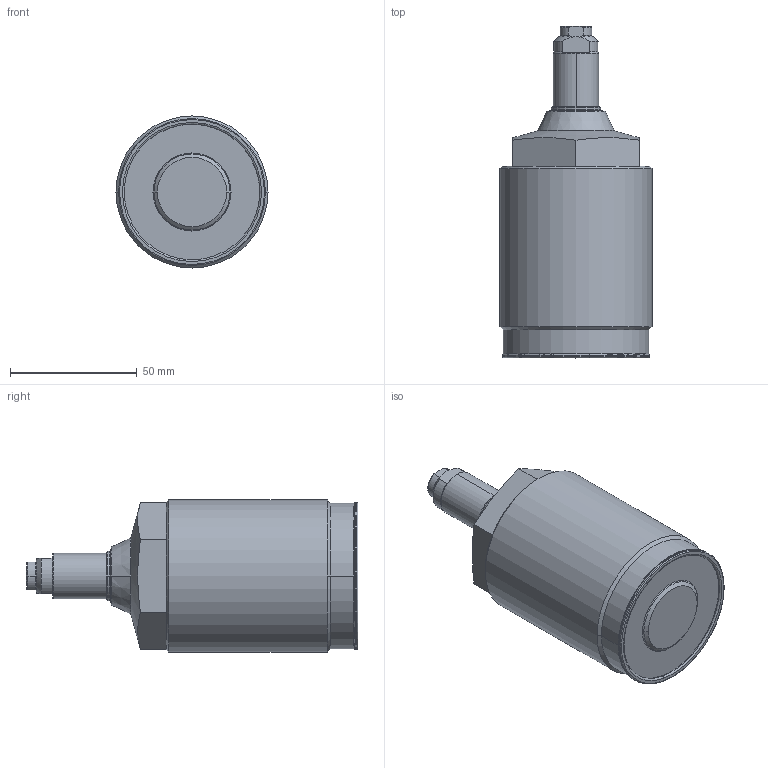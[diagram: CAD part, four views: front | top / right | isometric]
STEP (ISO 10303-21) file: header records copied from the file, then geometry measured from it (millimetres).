
FILE_DESCRIPTION(/* description */ (''),/* implementation_level */ '2;1');
FILE_NAME(/* name */ 'TNE60-Q_stp.stp',/* time_stamp */ '2024-01-16T10:55:10+08:00',/* author */ (''),/* organization */ (''),/* preprocessor_version */ 'ST-DEVELOPER v16.7',/* originating_system */ 'SIEMENS PLM Software NX 12.0',/* authorisation */ '');
FILE_SCHEMA (('AP203_CONFIGURATION_CONTROLLED_3D_DESIGN_OF_MECHANICAL_PARTS_AND_ASSEMBLIES_MIM_LF { 1 0 10303 403 2 1 2}'));
Length unit declared in the file: millimetre
Products named in the file (7): XLC-M10_Oring736; XLC-M10_contactbolt737; TNE60-Q-4738; TNE60-Q-3739; TNE60-Q-2740; TNE60-Q-1741; TNL60-Q_stp
Assembly tree (6 placements, depth 3):
  TNL60-Q_stp
    TNE60-Q-1741
      XLC-M10_contactbolt737
      XLC-M10_Oring736
    TNE60-Q-2740
    TNE60-Q-3739
    TNE60-Q-4738
Bounding box: 60 x 131 x 60 mm (x, y, z)
Volume: 245316.5 mm3; surface area: 26956.5 mm2
Topology: 5 solids, 5 shells, 127 faces, 275 edges, 166 vertices
Faces by surface type: torus 38, cylinder 36, plane 29, cone 22, sphere 2
Full cylindrical faces by diameter (mm): 60 x1
Entity records: 4411 total; most frequent: CARTESIAN_POINT 752, DIRECTION 691, ORIENTED_EDGE 544, AXIS2_PLACEMENT_3D 307, EDGE_CURVE 272, CIRCLE 173, VERTEX_POINT 166, EDGE_LOOP 144
